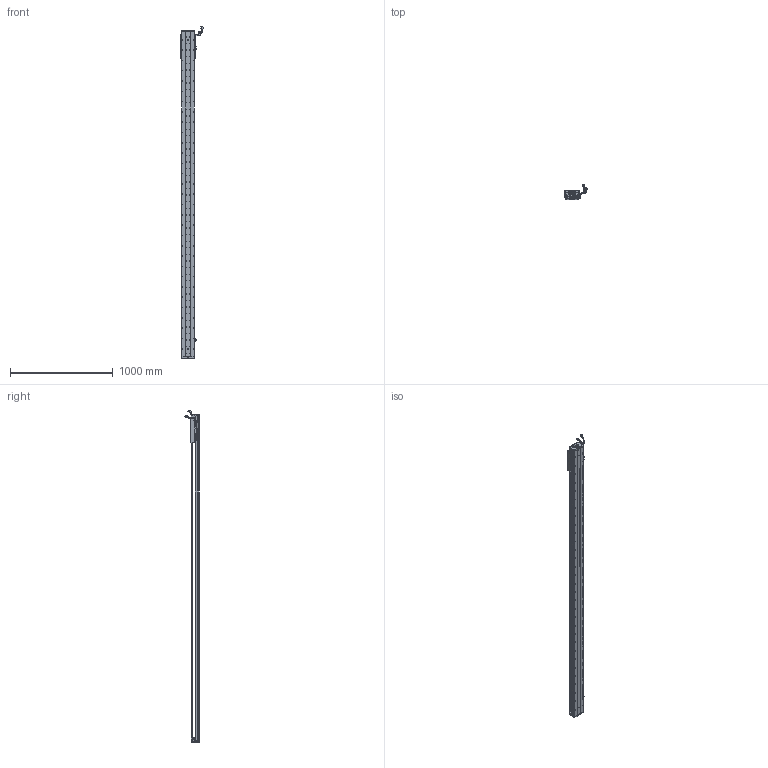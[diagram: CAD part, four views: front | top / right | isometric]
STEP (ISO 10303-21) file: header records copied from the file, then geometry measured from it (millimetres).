
FILE_DESCRIPTION (( 'STEP AP203' ), '1' );
FILE_NAME ('Z3-RY120D-1-L500-B-K.SLDASM_2850.step', '2021-05-17T05:51:38', ( '盈信电脑' ), ( '东莞市道滘镇水果街19号' ), 'SwSTEP 2.0', 'SolidWorks 2016', '' );
FILE_SCHEMA (( 'CONFIG_CONTROL_DESIGN' ));
Length unit declared in the file: millimetre
Products named in the file (37): HARNESS-Part-1; Z-RY120D詩湍奻揤裔; 080黍杅芛假蚾釱21遴; COVER-Part-1; SEAL; 榋妏寠巭燃_暯_M2_2; Z3-RY120D-1-L500-B-K.SLDASM_2850; SCREW-M1.6-3; Z3-RY120-500-倰第菁釱_2850; SCALE-Part-1; 140雄赽晤鎢ん堤盄; SCREW-M1.7-1; SCREW-M1.6-1; COVER; SCREW-M1.6-2; RY100FB-遵嫖萇覜茼え; 120-Z-臏賑輸盄裔(21遴); SHIELDPLATE; LABEL; PSLH080_PSLF2; Z-RY120D詩湍狟揤裔; 672嫖萇羲壽假蚾釱; SCALE; LABEL-Part-1; HARNESS; 140蚥薯蝶輸; Z3-RY120-L500詩湍100mm遵_2850; Z3-RY120铝滑块（21款）; SCREW-M1.7; 覜茼ん672; Z-120詩湍傷裔啣; SCREW-M1.6; SEAL-Part-1; SCALE-Part-2; PBU_SHEET; HARNESS-Part-2; HOLDER0
Assembly tree (43 placements, depth 4):
  Z3-RY120D-1-L500-B-K.SLDASM_2850
    Z3-RY120-500-倰第菁釱_2850
    覜茼ん672  x3
    672嫖萇羲壽假蚾釱  x2
    Z3-RY120铝滑块（21款）
    PSLH080_PSLF2
      SCALE
        SCALE-Part-1
        SCALE-Part-2
      HARNESS
        HARNESS-Part-1
        HARNESS-Part-2
      LABEL
        LABEL-Part-1
      COVER
        COVER-Part-1
      SEAL
        SEAL-Part-1
      榋妏寠巭燃_暯_M2_2
      SHIELDPLATE
      SCREW-M1.7
      SCREW-M1.7-1
      PBU_SHEET
      SCREW-M1.6
      SCREW-M1.6-1
      SCREW-M1.6-2
      SCREW-M1.6-3
      HOLDER0
    080黍杅芛假蚾釱21遴
    120-Z-臏賑輸盄裔(21遴)
    140雄赽晤鎢ん堤盄
    140蚥薯蝶輸  x2
    RY100FB-遵嫖萇覜茼え
    Z-120詩湍傷裔啣  x2
    Z-RY120D詩湍奻揤裔  x2
    Z-RY120D詩湍狟揤裔  x2
    Z3-RY120-L500詩湍100mm遵_2850
Bounding box: 222.83 x 140.94 x 3223.99 mm (x, y, z)
Volume: 7393357.4 mm3; surface area: 2600022.5 mm2
Topology: 38 solids, 38 shells, 3981 faces, 11467 edges, 7230 vertices
Faces by surface type: cylinder 2149, plane 1288, cone 422, torus 69, bspline 53
Entity records: 136718 total; most frequent: CARTESIAN_POINT 42859, ORIENTED_EDGE 19614, DIRECTION 17751, EDGE_CURVE 9807, AXIS2_PLACEMENT_3D 6584, VERTEX_POINT 6350, LINE 4583, VECTOR 4583
